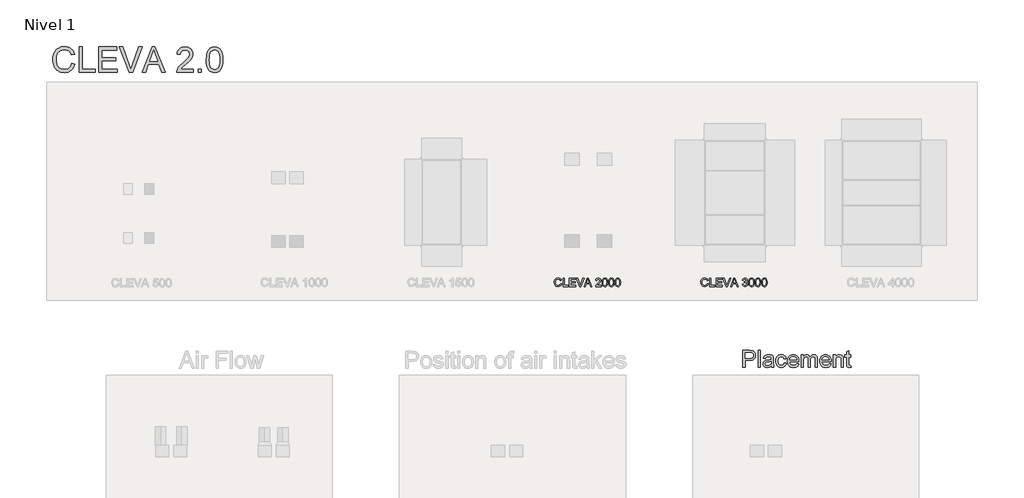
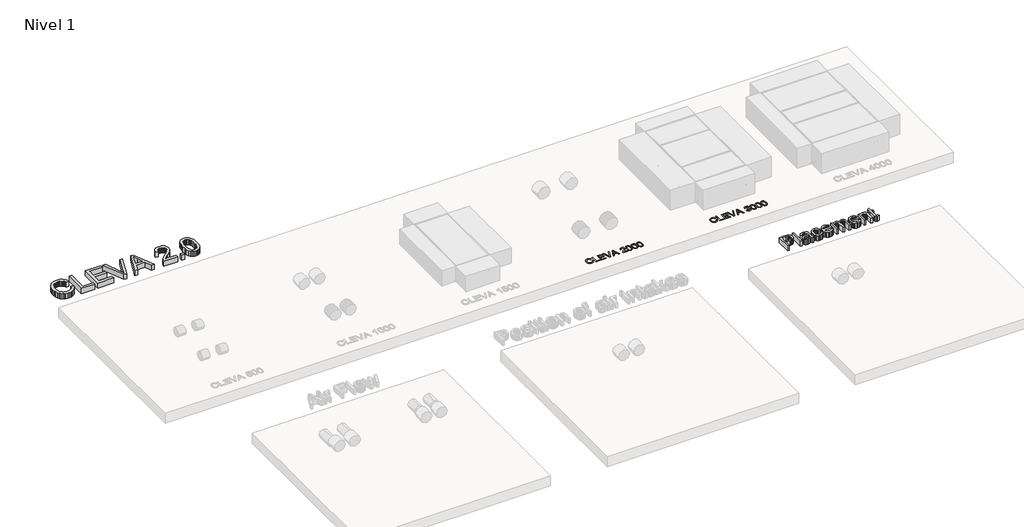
# One storey, part 3 of 4: 4 proxies.
"""IFC4 building model written with IfcOpenShell, lengths in millimetres."""

import ifcopenshell
import ifcopenshell.guid

model = None  # the IFC model being written
_history = None  # IfcOwnerHistory: only IFC2X3 demands one
_inside = {}  # id of a spatial element -> (the spatial element, [elements in it])
_under = {}  # id of a project, library or spatial element -> (it, [spatial elements below it])
_declared = {}  # id of a project -> (the project, [libraries it declares])
_typed = {}  # id of a type object -> (the type object, [elements of that type])
_made_of = {}  # id of a material, layer set ... -> (it, [elements and type objects made of it])


def new_model(schema):
    """Start an empty IFC model of exactly this schema.

    Asked for "IFC4X3", IfcOpenShell would pick the latest addendum, in which some entities
    have other attributes; the version numbers below select the first issue.
    IFC2X3 requires an IfcOwnerHistory on every rooted entity: one is made here for all.
    """
    global model, _history
    if schema == "IFC4X3":
        model = ifcopenshell.file(schema_version=(4, 3, 0, 0))
    else:
        model = ifcopenshell.file(schema=schema)
    _inside.clear()
    _under.clear()
    _declared.clear()
    _typed.clear()
    _made_of.clear()
    _history = None
    if model.schema == "IFC2X3":
        org = make("IfcOrganization", Name="unknown")
        user = make(
            "IfcPersonAndOrganization",
            ThePerson=make("IfcPerson", FamilyName="unknown"),
            TheOrganization=org,
        )
        app = make(
            "IfcApplication",
            ApplicationDeveloper=org,
            Version="unknown",
            ApplicationFullName="unknown",
            ApplicationIdentifier="unknown",
        )
        _history = make(
            "IfcOwnerHistory",
            OwningUser=user,
            OwningApplication=app,
            ChangeAction="ADDED",
            CreationDate=0,
        )
    return model


def make(cls, **values):
    """One entity of the class cls with the attributes given. An attribute that is None is left unset."""
    return model.create_entity(
        cls, **{name: value for name, value in values.items() if value is not None}
    )


def rooted(cls, **values):
    """An entity with a GlobalId (a new one), such as an element, a storey or a relation."""
    return make(cls, GlobalId=ifcopenshell.guid.new(), OwnerHistory=_history, **values)


def si_unit(unit_type, name, prefix=None):
    """IfcSIUnit, for example si_unit("LENGTHUNIT", "METRE", prefix="MILLI")."""
    return make("IfcSIUnit", UnitType=unit_type, Prefix=prefix, Name=name)


def assignment(units):
    """IfcUnitAssignment: the units of a project."""
    return None if units is None else make("IfcUnitAssignment", Units=units)


def point(xyz):
    """IfcCartesianPoint."""
    return None if xyz is None else make("IfcCartesianPoint", Coordinates=xyz)


def direction(xyz):
    """IfcDirection."""
    return None if xyz is None else make("IfcDirection", DirectionRatios=xyz)


def frame(location, z_axis=None, x_axis=None):
    """IfcAxis2Placement3D, a coordinate frame: its origin and axes. An axis left out is left unset."""
    return make(
        "IfcAxis2Placement3D",
        Location=point(location),
        Axis=direction(z_axis),
        RefDirection=direction(x_axis),
    )


def origin():
    """The frame at (0, 0, 0) with its axes left unset."""
    return frame((0.0, 0.0, 0.0))


def origin_with_axes():
    """The frame at (0, 0, 0) with the z axis (0, 0, 1) and the x axis (1, 0, 0) written out."""
    return frame((0.0, 0.0, 0.0), z_axis=(0.0, 0.0, 1.0), x_axis=(1.0, 0.0, 0.0))


def place(relative_to, where):
    """IfcLocalPlacement: puts the frame where relative to a parent placement (None: the world)."""
    return make(
        "IfcLocalPlacement", PlacementRelTo=relative_to, RelativePlacement=where
    )


def context(
    kind, dimensions, precision=None, world=None, true_north=None, identifier=None
):
    """IfcGeometricRepresentationContext, for example the 3D "Model" context."""
    return make(
        "IfcGeometricRepresentationContext",
        ContextIdentifier=identifier,
        ContextType=kind,
        CoordinateSpaceDimension=dimensions,
        Precision=precision,
        WorldCoordinateSystem=world,
        TrueNorth=true_north,
    )


def project(units=None, contexts=None):
    """IfcProject with its units and contexts."""
    return rooted(
        "IfcProject",
        Name="project",
        RepresentationContexts=contexts,
        UnitsInContext=assignment(units),
    )


def spatial(cls, under=None, at=None, **own):
    """A site, building, storey or space (cls), placed at a placement, below another one or the project."""
    s = rooted(cls, ObjectPlacement=at, **own)
    if under is not None:
        _under.setdefault(under.id(), (under, []))[1].append(s)
    return s


def polyline(points):
    """IfcPolyline through the points."""
    return make("IfcPolyline", Points=[point(p) for p in points])


def outline(outer, holes=None, kind="AREA"):
    """IfcArbitraryClosedProfileDef: a profile drawn as a closed curve; with holes, ...WithVoids."""
    if holes is None:
        return make("IfcArbitraryClosedProfileDef", ProfileType=kind, OuterCurve=outer)
    return make(
        "IfcArbitraryProfileDefWithVoids",
        ProfileType=kind,
        OuterCurve=outer,
        InnerCurves=holes,
    )


def extrude(swept, where, along, depth):
    """IfcExtrudedAreaSolid: the profile swept, set in the frame where, extruded along a direction by depth."""
    return make(
        "IfcExtrudedAreaSolid",
        SweptArea=swept,
        Position=where,
        ExtrudedDirection=direction(along),
        Depth=depth,
    )


def shape(context_of_items, identifier, shape_type, items):
    """IfcShapeRepresentation: the items that make up one representation, for example the "Body"."""
    return make(
        "IfcShapeRepresentation",
        ContextOfItems=context_of_items,
        RepresentationIdentifier=identifier,
        RepresentationType=shape_type,
        Items=items,
    )


def made_of(thing, what):
    """Note that an element or type object is made of a material, layer set ...; save() writes the relation."""
    if what is not None:
        _made_of.setdefault(what.id(), (what, []))[1].append(thing)
    return thing


def element(
    cls,
    number,
    at=None,
    inside=None,
    cuts=None,
    type_object=None,
    material=None,
    context=None,
    identifier="Body",
    shape_type=None,
    held_by="IfcProductDefinitionShape",
    body=None,
    shapes=None,
    **own,
):
    """One element of the class cls, such as IfcWall. Its Tag is "e" and its number.

    at: its placement. inside: the storey or other place that contains it. cuts: it is an
    opening in that element (IfcRelVoidsElement). A single representation is given by context,
    identifier, shape_type and body (its items); several are given by shapes. held_by: the class
    of the entity that holds the representations. save() writes the other relations.
    """
    e = rooted(cls, Tag="e%d" % number, ObjectPlacement=at, **own)
    if body is not None:
        shapes = [shape(context, identifier, shape_type, body)]
    if shapes is not None:
        e.Representation = make(held_by, Representations=shapes)
    if inside is not None:
        _inside.setdefault(inside.id(), (inside, []))[1].append(e)
    if cuts is not None:
        rooted(
            "IfcRelVoidsElement", RelatingBuildingElement=cuts, RelatedOpeningElement=e
        )
    if type_object is not None:
        _typed.setdefault(type_object.id(), (type_object, []))[1].append(e)
    return made_of(e, material)


def aggregate(whole, parts):
    """IfcRelAggregates: a whole, such as a stair, and the parts it consists of."""
    return rooted("IfcRelAggregates", RelatingObject=whole, RelatedObjects=parts)


def save(model, path):
    """Write the relations noted so far, then the file.

    IfcRelAggregates (storeys below a building ...), IfcRelContainedInSpatialStructure (elements
    in a storey), IfcRelDefinesByType, IfcRelAssociatesMaterial and IfcRelDeclares: one each for
    every whole, place, type object, material and project.
    """
    for whole, parts in _under.values():
        aggregate(whole, parts)
    for where, things in _inside.values():
        rooted(
            "IfcRelContainedInSpatialStructure",
            RelatedElements=things,
            RelatingStructure=where,
        )
    for kind, things in _typed.values():
        rooted("IfcRelDefinesByType", RelatedObjects=things, RelatingType=kind)
    for what, things in _made_of.values():
        rooted("IfcRelAssociatesMaterial", RelatedObjects=things, RelatingMaterial=what)
    for by, libraries in _declared.values():
        rooted("IfcRelDeclares", RelatingContext=by, RelatedDefinitions=libraries)
    model.write(path)


model = new_model("IFC4")

# Units and contexts
model_context = context("Model", 3, world=origin())
ifc_project = project(units=[si_unit("LENGTHUNIT", "METRE", prefix="MILLI")], contexts=[model_context])

# Site, building, storey
site = spatial("IfcSite", under=ifc_project)
building = spatial("IfcBuilding", under=site)
storey = spatial("IfcBuildingStorey", under=building, Name="Nivel 1", Elevation=0.0)

# Proxies
placement = place(None, origin())
element("IfcBuildingElementProxy", 1, Name="200mm Arial", ObjectType="200mm Arial", at=placement, inside=storey, context=model_context, shape_type="SweptSolid", body=[
    extrude(outline(polyline([(853.8312052, 6690.6454799), (878.9452827, 6684.1707568), (867.3569999, 6654.9057441), (849.1713666, 6633.5256688), (825.2835624, 6620.4474638), (796.5887667, 6616.0880622), (767.4586441, 6619.3867374), (744.3249979, 6629.2827631), (726.5930858, 6645.4327827), (713.668165, 6667.4934397), (705.7770962, 6693.4291203), (703.14674, 6721.204211), (706.1204528, 6750.4998805), (715.0415911, 6775.797899), (729.4441712, 6796.2950575), (748.8622092, 6811.188147), (771.8916221, 6820.2564382), (797.128327, 6823.2792019), (824.6642943, 6819.36739), (847.4300585, 6807.6319544), (864.7143809, 6788.7963962), (875.806023, 6763.5842168), (850.6919455, 6757.600003), (841.9854049, 6775.914395), (830.0905538, 6788.4775651), (814.8602392, 6795.7432345), (796.1473083, 6798.1651244), (774.5771607, 6795.4795858), (756.8575113, 6787.4229701), (743.4114243, 6774.8414059), (734.6619642, 6758.5810217), (729.8611042, 6740.1991846), (728.2608175, 6721.2532619), (730.1554098, 6698.0521707), (735.8391866, 6677.9903393), (745.5267458, 6661.8341883), (759.4326852, 6650.3501387), (776.103871, 6643.4891395), (794.0871692, 6641.2021397), (815.0503115, 6644.316874), (832.5185749, 6653.6610766), (845.7071445, 6669.1366459), (853.8312052, 6690.6454799)])), origin_with_axes(), (0.0, 0.0, 1.0), 10.0),
    extrude(outline(polyline([(913.4771393, 6619.2273219), (913.4771393, 6820.1399422), (938.5912169, 6820.1399422), (938.5912169, 6644.3413994), (1039.047527, 6644.3413994), (1039.047527, 6619.2273219), (913.4771393, 6619.2273219)])), origin_with_axes(), (0.0, 0.0, 1.0), 10.0),
    extrude(outline(polyline([(1067.3008642, 6619.2273219), (1067.3008642, 6820.1399422), (1211.7068101, 6820.1399422), (1211.7068101, 6795.0258647), (1092.4149418, 6795.0258647), (1092.4149418, 6735.3799305), (1205.4282907, 6735.3799305), (1205.4282907, 6710.265853), (1092.4149418, 6710.265853), (1092.4149418, 6644.3413994), (1214.8460698, 6644.3413994), (1214.8460698, 6619.2273219), (1067.3008642, 6619.2273219)])), origin_with_axes(), (0.0, 0.0, 1.0), 10.0),
    extrude(outline(polyline([(1414.336213, 6619.2273219), (1494.534488, 6820.1399422), (1515.9206946, 6820.1399422), (1596.1189696, 6619.2273219), (1569.582415, 6619.2273219), (1546.5775276, 6682.0125157), (1463.8286041, 6682.0125157), (1440.8727676, 6619.2273219), (1414.336213, 6619.2273219)]), holes=[polyline([(1473.0501795, 6707.1265933), (1537.4050032, 6707.1265933), (1519.305209, 6756.5208825), (1505.2275913, 6795.0258647), (1492.7196035, 6760.8373646), (1473.0501795, 6707.1265933)])]), origin_with_axes(), (0.0, 0.0, 1.0), 10.0),
    extrude(outline(polyline([(1311.8688146, 6619.2273219), (1231.9157944, 6820.1399422), (1258.7957055, 6820.1399422), (1312.310273, 6675.3906398), (1323.1505292, 6642.7717696), (1333.8436325, 6675.3906398), (1387.5053529, 6820.1399422), (1414.385264, 6820.1399422), (1337.816758, 6619.2273219), (1311.8688146, 6619.2273219)])), origin_with_axes(), (0.0, 0.0, 1.0), 10.0),
    extrude(outline(polyline([(1820.7231904, 6644.3413994), (1820.7231904, 6619.2273219), (1688.8742833, 6619.2273219), (1691.5720846, 6636.5423011), (1706.8269247, 6663.2014831), (1738.2685725, 6692.3132116), (1781.629597, 6734.1536572), (1789.7597891, 6748.5746314), (1792.4698531, 6762.6031982), (1789.9130733, 6775.178631), (1782.2427337, 6785.632611), (1770.4521157, 6792.6775513), (1755.5345008, 6795.0258647), (1739.8688592, 6792.7327336), (1727.6980965, 6785.8533402), (1719.8438159, 6774.927245), (1717.1276205, 6760.494008), (1692.013543, 6763.6332677), (1698.10199, 6787.9257422), (1711.2660341, 6805.6699171), (1730.8189621, 6816.5224359), (1756.0740611, 6820.1399422), (1781.5131011, 6816.1177657), (1801.0292409, 6804.0512363), (1813.4452582, 6786.0250185), (1817.5839307, 6764.1237771), (1813.1202958, 6740.3095492), (1798.2823887, 6715.685981), (1762.3035295, 6681.2767518), (1733.4125302, 6657.1191674), (1722.0817647, 6644.3413994), (1820.7231904, 6644.3413994)])), origin_with_axes(), (0.0, 0.0, 1.0), 10.0),
    extrude(outline(polyline([(1845.8372679, 6718.0649513), (1847.6828093, 6750.223969), (1853.2194333, 6775.8714754), (1862.3919577, 6795.399878), (1875.1452002, 6809.2015842), (1891.5711313, 6817.4053527), (1911.7617214, 6820.1399422), (1927.2372907, 6818.5212614), (1941.0941792, 6813.6652191), (1952.682462, 6805.7618876), (1961.3522144, 6795.0013392), (1973.1244382, 6765.276474), (1977.686175, 6718.0649513), (1975.8590277, 6686.0898745), (1970.377586, 6660.5036818), (1961.2602439, 6640.9568851), (1948.5253955, 6627.0999966), (1932.0626762, 6618.8410458), (1911.7617214, 6616.0880622), (1885.6666253, 6620.8705281), (1865.8500484, 6635.217926), (1857.094457, 6650.347073), (1850.840463, 6669.1979596), (1845.8372679, 6718.0649513)]), holes=[polyline([(1870.9513454, 6718.1140022), (1873.8944014, 6678.6096073), (1882.7235693, 6655.7457413), (1895.8692193, 6644.8380401), (1911.7617214, 6641.2021397), (1927.6542236, 6644.8503029), (1940.7998736, 6655.7947922), (1949.6290415, 6678.670921), (1952.5720974, 6718.1140022), (1949.7271433, 6756.729349), (1941.1922811, 6779.7710246), (1928.0711566, 6791.2121546), (1911.4674158, 6795.0258647), (1895.7465919, 6791.6658758), (1883.1159768, 6781.5859091), (1873.9925033, 6757.1094937), (1870.9513454, 6718.1140022)])]), origin_with_axes(), (0.0, 0.0, 1.0), 10.0),
    extrude(outline(polyline([(1999.6609928, 6718.0649513), (2001.5065342, 6750.223969), (2007.0431582, 6775.8714754), (2016.2156826, 6795.399878), (2028.9689251, 6809.2015842), (2045.3948562, 6817.4053527), (2065.5854464, 6820.1399422), (2081.0610156, 6818.5212614), (2094.9179041, 6813.6652191), (2106.506187, 6805.7618876), (2115.1759393, 6795.0013392), (2126.9481632, 6765.276474), (2131.5098999, 6718.0649513), (2129.6827527, 6686.0898745), (2124.2013109, 6660.5036818), (2115.0839688, 6640.9568851), (2102.3491204, 6627.0999966), (2085.8864011, 6618.8410458), (2065.5854464, 6616.0880622), (2039.4903502, 6620.8705281), (2019.6737734, 6635.217926), (2010.9181819, 6650.347073), (2004.664188, 6669.1979596), (1999.6609928, 6718.0649513)]), holes=[polyline([(2024.7750704, 6718.1140022), (2027.7181263, 6678.6096073), (2036.5472942, 6655.7457413), (2049.6929442, 6644.8380401), (2065.5854464, 6641.2021397), (2081.4779486, 6644.8503029), (2094.6235985, 6655.7947922), (2103.4527664, 6678.670921), (2106.3958224, 6718.1140022), (2103.5508683, 6756.729349), (2095.016006, 6779.7710246), (2081.8948815, 6791.2121546), (2065.2911408, 6795.0258647), (2049.5703168, 6791.6658758), (2036.9397017, 6781.5859091), (2027.8162282, 6757.1094937), (2024.7750704, 6718.1140022)])]), origin_with_axes(), (0.0, 0.0, 1.0), 10.0),
    extrude(outline(polyline([(2153.4847177, 6718.0649513), (2155.3302591, 6750.223969), (2160.8668831, 6775.8714754), (2170.0394075, 6795.399878), (2182.79265, 6809.2015842), (2199.2185811, 6817.4053527), (2219.4091713, 6820.1399422), (2234.8847405, 6818.5212614), (2248.741629, 6813.6652191), (2260.3299119, 6805.7618876), (2268.9996642, 6795.0013392), (2280.7718881, 6765.276474), (2285.3336248, 6718.0649513), (2283.5064776, 6686.0898745), (2278.0250358, 6660.5036818), (2268.9076937, 6640.9568851), (2256.1728453, 6627.0999966), (2239.710126, 6618.8410458), (2219.4091713, 6616.0880622), (2193.3140751, 6620.8705281), (2173.4974983, 6635.217926), (2164.7419068, 6650.347073), (2158.4879129, 6669.1979596), (2153.4847177, 6718.0649513)]), holes=[polyline([(2178.5987953, 6718.1140022), (2181.5418512, 6678.6096073), (2190.3710191, 6655.7457413), (2203.5166691, 6644.8380401), (2219.4091713, 6641.2021397), (2235.3016735, 6644.8503029), (2248.4473234, 6655.7947922), (2257.2764913, 6678.670921), (2260.2195473, 6718.1140022), (2257.3745932, 6756.729349), (2248.8397309, 6779.7710246), (2235.7186064, 6791.2121546), (2219.1148657, 6795.0258647), (2203.3940418, 6791.6658758), (2190.7634266, 6781.5859091), (2181.6399531, 6757.1094937), (2178.5987953, 6718.1140022)])]), origin_with_axes(), (0.0, 0.0, 1.0), 10.0),
])
element("IfcBuildingElementProxy", 2, Name="200mm Arial", ObjectType="200mm Arial", at=placement, inside=storey, context=model_context, shape_type="SweptSolid", body=[
    extrude(outline(polyline([(4353.8312052, 6690.6454799), (4378.9452827, 6684.1707568), (4367.3569999, 6654.9057441), (4349.1713666, 6633.5256688), (4325.2835624, 6620.4474638), (4296.5887667, 6616.0880622), (4267.4586441, 6619.3867374), (4244.3249979, 6629.2827631), (4226.5930858, 6645.4327827), (4213.668165, 6667.4934397), (4205.7770962, 6693.4291203), (4203.14674, 6721.204211), (4206.1204528, 6750.4998805), (4215.0415911, 6775.797899), (4229.4441712, 6796.2950575), (4248.8622092, 6811.188147), (4271.8916221, 6820.2564382), (4297.128327, 6823.2792019), (4324.6642943, 6819.36739), (4347.4300585, 6807.6319544), (4364.7143809, 6788.7963962), (4375.806023, 6763.5842168), (4350.6919455, 6757.600003), (4341.9854049, 6775.914395), (4330.0905538, 6788.4775651), (4314.8602392, 6795.7432345), (4296.1473083, 6798.1651244), (4274.5771607, 6795.4795858), (4256.8575113, 6787.4229701), (4243.4114243, 6774.8414059), (4234.6619642, 6758.5810217), (4229.8611042, 6740.1991846), (4228.2608175, 6721.2532619), (4230.1554098, 6698.0521707), (4235.8391866, 6677.9903393), (4245.5267458, 6661.8341883), (4259.4326852, 6650.3501387), (4276.103871, 6643.4891395), (4294.0871692, 6641.2021397), (4315.0503115, 6644.316874), (4332.5185749, 6653.6610766), (4345.7071445, 6669.1366459), (4353.8312052, 6690.6454799)])), origin_with_axes(), (0.0, 0.0, 1.0), 10.0),
    extrude(outline(polyline([(4413.4771393, 6619.2273219), (4413.4771393, 6820.1399422), (4438.5912169, 6820.1399422), (4438.5912169, 6644.3413994), (4539.047527, 6644.3413994), (4539.047527, 6619.2273219), (4413.4771393, 6619.2273219)])), origin_with_axes(), (0.0, 0.0, 1.0), 10.0),
    extrude(outline(polyline([(4567.3008642, 6619.2273219), (4567.3008642, 6820.1399422), (4711.7068101, 6820.1399422), (4711.7068101, 6795.0258647), (4592.4149418, 6795.0258647), (4592.4149418, 6735.3799305), (4705.4282907, 6735.3799305), (4705.4282907, 6710.265853), (4592.4149418, 6710.265853), (4592.4149418, 6644.3413994), (4714.8460698, 6644.3413994), (4714.8460698, 6619.2273219), (4567.3008642, 6619.2273219)])), origin_with_axes(), (0.0, 0.0, 1.0), 10.0),
    extrude(outline(polyline([(4914.336213, 6619.2273219), (4994.534488, 6820.1399422), (5015.9206946, 6820.1399422), (5096.1189696, 6619.2273219), (5069.582415, 6619.2273219), (5046.5775276, 6682.0125157), (4963.8286041, 6682.0125157), (4940.8727676, 6619.2273219), (4914.336213, 6619.2273219)]), holes=[polyline([(4973.0501795, 6707.1265933), (5037.4050032, 6707.1265933), (5019.305209, 6756.5208825), (5005.2275913, 6795.0258647), (4992.7196035, 6760.8373646), (4973.0501795, 6707.1265933)])]), origin_with_axes(), (0.0, 0.0, 1.0), 10.0),
    extrude(outline(polyline([(4811.8688146, 6619.2273219), (4731.9157944, 6820.1399422), (4758.7957055, 6820.1399422), (4812.310273, 6675.3906398), (4823.1505292, 6642.7717696), (4833.8436325, 6675.3906398), (4887.5053529, 6820.1399422), (4914.385264, 6820.1399422), (4837.816758, 6619.2273219), (4811.8688146, 6619.2273219)])), origin_with_axes(), (0.0, 0.0, 1.0), 10.0),
    extrude(outline(polyline([(5192.013543, 6672.5947367), (5217.1276205, 6675.7339964), (5222.7500837, 6659.9518588), (5230.984509, 6649.2955436), (5242.2355667, 6643.2254907), (5256.9079269, 6641.2021397), (5274.1248043, 6643.9857802), (5287.4176071, 6652.3367015), (5295.9156812, 6664.7956384), (5298.7483725, 6679.9033256), (5295.9402066, 6694.2445921), (5287.5157089, 6705.8757945), (5274.7624664, 6713.5829223), (5258.9680661, 6716.1519649), (5241.3587813, 6713.4051127), (5244.1546844, 6738.5191902), (5248.1768609, 6738.2248846), (5263.2232345, 6740.0275064), (5276.6754528, 6745.4353717), (5286.1668083, 6754.5833707), (5289.3305934, 6767.6063933), (5287.0374623, 6778.4527808), (5280.158069, 6787.2512918), (5269.6611694, 6793.0822215), (5256.5155195, 6795.0258647), (5243.3453441, 6793.0638274), (5232.5786643, 6787.1777154), (5224.7182524, 6777.3675289), (5220.2668802, 6763.6332677), (5195.1528027, 6766.7725274), (5202.5472308, 6789.3236937), (5215.7051435, 6806.1604264), (5233.7068358, 6816.6450632), (5255.6326027, 6820.1399422), (5271.4208717, 6818.4170282), (5285.9215536, 6813.2482862), (5298.1474986, 6805.0935686), (5307.1115565, 6794.412728), (5312.6113924, 6782.1070753), (5314.444671, 6769.0779213), (5312.7033629, 6756.9378154), (5307.4794385, 6745.925881), (5298.8464744, 6736.5448902), (5286.8780468, 6729.2976149), (5302.5988707, 6722.9455191), (5314.2484673, 6712.1297884), (5321.4589544, 6697.4390341), (5323.8624501, 6679.4618672), (5319.0554587, 6654.9854518), (5304.6344844, 6634.5312129), (5282.8681331, 6620.6988499), (5256.0250102, 6616.0880622), (5231.7447985, 6620.0243996), (5211.9772726, 6631.8334116), (5198.2307487, 6649.8964176), (5192.013543, 6672.5947367)])), origin_with_axes(), (0.0, 0.0, 1.0), 10.0),
    extrude(outline(polyline([(5345.8372679, 6718.0649513), (5347.6828093, 6750.223969), (5353.2194333, 6775.8714754), (5362.3919577, 6795.399878), (5375.1452002, 6809.2015842), (5391.5711313, 6817.4053527), (5411.7617214, 6820.1399422), (5427.2372907, 6818.5212614), (5441.0941792, 6813.6652191), (5452.682462, 6805.7618876), (5461.3522144, 6795.0013392), (5473.1244382, 6765.276474), (5477.686175, 6718.0649513), (5475.8590277, 6686.0898745), (5470.377586, 6660.5036818), (5461.2602439, 6640.9568851), (5448.5253955, 6627.0999966), (5432.0626762, 6618.8410458), (5411.7617214, 6616.0880622), (5385.6666253, 6620.8705281), (5365.8500484, 6635.217926), (5357.094457, 6650.347073), (5350.840463, 6669.1979596), (5345.8372679, 6718.0649513)]), holes=[polyline([(5370.9513454, 6718.1140022), (5373.8944014, 6678.6096073), (5382.7235693, 6655.7457413), (5395.8692193, 6644.8380401), (5411.7617214, 6641.2021397), (5427.6542236, 6644.8503029), (5440.7998736, 6655.7947922), (5449.6290415, 6678.670921), (5452.5720974, 6718.1140022), (5449.7271433, 6756.729349), (5441.1922811, 6779.7710246), (5428.0711566, 6791.2121546), (5411.4674158, 6795.0258647), (5395.7465919, 6791.6658758), (5383.1159768, 6781.5859091), (5373.9925033, 6757.1094937), (5370.9513454, 6718.1140022)])]), origin_with_axes(), (0.0, 0.0, 1.0), 10.0),
    extrude(outline(polyline([(5499.6609928, 6718.0649513), (5501.5065342, 6750.223969), (5507.0431582, 6775.8714754), (5516.2156826, 6795.399878), (5528.9689251, 6809.2015842), (5545.3948562, 6817.4053527), (5565.5854464, 6820.1399422), (5581.0610156, 6818.5212614), (5594.9179041, 6813.6652191), (5606.506187, 6805.7618876), (5615.1759393, 6795.0013392), (5626.9481632, 6765.276474), (5631.5098999, 6718.0649513), (5629.6827527, 6686.0898745), (5624.2013109, 6660.5036818), (5615.0839688, 6640.9568851), (5602.3491204, 6627.0999966), (5585.8864011, 6618.8410458), (5565.5854464, 6616.0880622), (5539.4903502, 6620.8705281), (5519.6737734, 6635.217926), (5510.9181819, 6650.347073), (5504.664188, 6669.1979596), (5499.6609928, 6718.0649513)]), holes=[polyline([(5524.7750704, 6718.1140022), (5527.7181263, 6678.6096073), (5536.5472942, 6655.7457413), (5549.6929442, 6644.8380401), (5565.5854464, 6641.2021397), (5581.4779486, 6644.8503029), (5594.6235985, 6655.7947922), (5603.4527664, 6678.670921), (5606.3958224, 6718.1140022), (5603.5508683, 6756.729349), (5595.016006, 6779.7710246), (5581.8948815, 6791.2121546), (5565.2911408, 6795.0258647), (5549.5703168, 6791.6658758), (5536.9397017, 6781.5859091), (5527.8162282, 6757.1094937), (5524.7750704, 6718.1140022)])]), origin_with_axes(), (0.0, 0.0, 1.0), 10.0),
    extrude(outline(polyline([(5653.4847177, 6718.0649513), (5655.3302591, 6750.223969), (5660.8668831, 6775.8714754), (5670.0394075, 6795.399878), (5682.79265, 6809.2015842), (5699.2185811, 6817.4053527), (5719.4091713, 6820.1399422), (5734.8847405, 6818.5212614), (5748.741629, 6813.6652191), (5760.3299119, 6805.7618876), (5768.9996642, 6795.0013392), (5780.7718881, 6765.276474), (5785.3336248, 6718.0649513), (5783.5064776, 6686.0898745), (5778.0250358, 6660.5036818), (5768.9076937, 6640.9568851), (5756.1728453, 6627.0999966), (5739.710126, 6618.8410458), (5719.4091713, 6616.0880622), (5693.3140751, 6620.8705281), (5673.4974983, 6635.217926), (5664.7419068, 6650.347073), (5658.4879129, 6669.1979596), (5653.4847177, 6718.0649513)]), holes=[polyline([(5678.5987953, 6718.1140022), (5681.5418512, 6678.6096073), (5690.3710191, 6655.7457413), (5703.5166691, 6644.8380401), (5719.4091713, 6641.2021397), (5735.3016735, 6644.8503029), (5748.4473234, 6655.7947922), (5757.2764913, 6678.670921), (5760.2195473, 6718.1140022), (5757.3745932, 6756.729349), (5748.8397309, 6779.7710246), (5735.7186064, 6791.2121546), (5719.1148657, 6795.0258647), (5703.3940418, 6791.6658758), (5690.7634266, 6781.5859091), (5681.6399531, 6757.1094937), (5678.5987953, 6718.1140022)])]), origin_with_axes(), (0.0, 0.0, 1.0), 10.0),
])
element("IfcBuildingElementProxy", 3, Name="400mm Arial", ObjectType="400mm Arial", at=placement, inside=storey, context=model_context, shape_type="SweptSolid", body=[
    extrude(outline(polyline([(5208.7895796, 4690.2598658), (5208.7895796, 5092.0851064), (5357.7082112, 5092.0851064), (5417.7465529, 5088.2591337), (5444.5160994, 5081.1099602), (5466.5522309, 5069.4726264), (5484.2964058, 5052.8198348), (5498.1900825, 5030.6242878), (5507.1664032, 5004.4433524), (5510.15851, 4975.8343959), (5508.1382248, 4951.1679082), (5502.0773689, 4928.4757204), (5491.9759424, 4907.7578327), (5477.8339454, 4889.0142451), (5458.4189731, 4873.4773622), (5432.4986209, 4862.3795886), (5400.0728887, 4855.7209245), (5361.1417765, 4853.5013698), (5259.0177347, 4853.5013698), (5259.0177347, 4690.2598658), (5208.7895796, 4690.2598658)]), holes=[polyline([(5259.0177347, 4903.7295249), (5364.0848325, 4903.7295249), (5408.6230794, 4908.3403126), (5425.2268201, 4914.1037972), (5438.053639, 4922.1726756), (5447.6247022, 4932.33235), (5454.461176, 4944.3682226), (5459.930355, 4974.0685624), (5456.7052561, 4996.6319914), (5447.0299597, 5015.6637533), (5432.1062134, 5029.9866256), (5413.1357652, 5038.4233861), (5362.9076101, 5041.8569513), (5259.0177347, 5041.8569513), (5259.0177347, 4903.7295249)])]), origin_with_axes(), (0.0, 0.0, 1.0), 150.0),
    extrude(outline(polyline([(5572.9437039, 4690.2598658), (5572.9437039, 5092.0851064), (5623.171859, 5092.0851064), (5623.171859, 4690.2598658), (5572.9437039, 4690.2598658)])), origin_with_axes(), (0.0, 0.0, 1.0), 150.0),
    extrude(outline(polyline([(5886.8696731, 4727.9309821), (5862.8715043, 4707.3541159), (5838.1620969, 4693.8896348), (5812.1773654, 4686.4584185), (5784.3532238, 4683.9813464), (5761.9890642, 4685.4712685), (5742.3778881, 4689.9410348), (5725.5196957, 4697.3906452), (5711.4144869, 4707.8200997), (5700.2768595, 4720.5672109), (5692.3214113, 4734.969791), (5687.5481424, 4751.0278401), (5685.9570528, 4768.7413581), (5688.3605485, 4789.5634791), (5695.5710356, 4808.4726136), (5706.6933346, 4824.6594214), (5720.832266, 4837.314562), (5737.4482694, 4846.8794939), (5756.0017847, 4853.7956754), (5799.4609111, 4861.349519), (5850.8172376, 4869.2957701), (5886.5753675, 4878.6154474), (5886.8696731, 4889.79906), (5883.4115824, 4912.2153362), (5873.0373101, 4926.8815651), (5849.8362189, 4937.7708722), (5817.5116543, 4941.4006412), (5787.5905853, 4938.9848828), (5766.694888, 4931.7376075), (5752.4455921, 4918.3344401), (5742.4637273, 4897.4510055), (5692.2355722, 4903.7295249), (5700.9543755, 4931.1980472), (5713.9651354, 4952.7804576), (5732.4818625, 4969.2860964), (5757.7185673, 4981.5243041), (5788.5838667, 4989.1026732), (5823.9863774, 4991.6287963), (5857.9418856, 4989.3969788), (5884.8585849, 4982.7015265), (5905.1534083, 4972.6338226), (5919.2432887, 4960.2852503), (5928.5874914, 4945.0181475), (5934.6452815, 4926.1948521), (5937.0978282, 4882.2452164), (5937.0978282, 4819.7543281), (5939.6484767, 4732.4927189), (5949.654867, 4690.2598658), (5899.4267119, 4690.2598658), (5891.3823589, 4707.7219979), (5886.8696731, 4727.9309821)]), holes=[polyline([(5886.8696731, 4828.3872923), (5853.1226314, 4820.0241083), (5805.8375323, 4812.9852994), (5762.6236606, 4804.8428446), (5751.3787343, 4799.2755637), (5743.0523385, 4791.5990928), (5737.9019905, 4782.4020429), (5736.1852079, 4772.2730253), (5739.9253415, 4757.3370163), (5751.1457424, 4745.0988086), (5769.6011558, 4736.9318283), (5795.0463271, 4734.2095015), (5822.0243401, 4737.2138711), (5845.8630934, 4746.22698), (5865.1891609, 4759.50752), (5878.6291164, 4775.3141831), (5884.5888047, 4791.5990928), (5886.5753675, 4814.1625218), (5886.8696731, 4828.3872923)])]), origin_with_axes(), (0.0, 0.0, 1.0), 150.0),
    extrude(outline(polyline([(6194.5171229, 4796.9946954), (6244.745278, 4790.716176), (6239.2822304, 4767.0153784), (6230.7412367, 4746.043039), (6219.1222971, 4727.7991577), (6204.4254113, 4712.2837346), (6187.2698476, 4699.9014398), (6168.274874, 4691.0569435), (6147.4404903, 4685.7502457), (6124.7666967, 4683.9813464), (6096.5961329, 4686.4492215), (6071.3379682, 4693.8528466), (6048.9922027, 4706.1922219), (6029.5588363, 4723.4673473), (6013.8288153, 4745.3532603), (6002.5930861, 4771.5249986), (5995.8516485, 4801.9825621), (5993.6045026, 4836.7259508), (5997.4427381, 4881.4236132), (6008.9574446, 4920.1615873), (6028.332563, 4951.4438197), (6055.7520344, 4973.7742568), (6088.5548456, 4987.1651614), (6124.0799836, 4991.6287963), (6146.3644355, 4990.0959546), (6166.5213031, 4985.4974297), (6184.5505866, 4977.8332214), (6200.4522858, 4967.1033299), (6213.9566207, 4953.5530098), (6224.7938111, 4937.4275156), (6232.9638571, 4918.7268476), (6238.4667586, 4897.4510055), (6188.2386036, 4891.1724861), (6179.1273928, 4913.0859903), (6164.9394105, 4928.7945515), (6146.4594716, 4938.2491188), (6124.4723911, 4941.4006412), (6107.4057322, 4939.8494054), (6092.0129364, 4935.1956982), (6078.2940036, 4927.4395195), (6066.248934, 4916.5808693), (6056.4418131, 4902.3683615), (6049.4367268, 4884.5506102), (6045.233675, 4863.1276154), (6043.8326577, 4838.0993769), (6049.3140994, 4791.0227443), (6056.1659016, 4773.0854314), (6065.7584246, 4758.8821207), (6077.564371, 4748.0878498), (6091.0564432, 4740.3776563), (6106.2346411, 4735.7515402), (6123.0989649, 4734.2095015), (6149.108222, 4738.0599997), (6170.433115, 4749.6114944), (6185.9454725, 4769.1582911), (6194.5171229, 4796.9946954)])), origin_with_axes(), (0.0, 0.0, 1.0), 150.0),
    extrude(outline(polyline([(6495.2974422, 4778.1591372), (6544.5445786, 4771.8806178), (6536.9938007, 4752.1560115), (6526.8004037, 4734.7735872), (6513.9643878, 4719.733345), (6498.4857528, 4707.0352848), (6480.5239144, 4696.9491868), (6460.2382881, 4689.744831), (6412.6956715, 4683.9813464), (6381.5299352, 4686.4676156), (6353.7609759, 4693.926423), (6329.3887937, 4706.3577688), (6308.4133886, 4723.7616528), (6291.5459992, 4745.6536972), (6279.4978638, 4771.549524), (6272.2689826, 4801.4491332), (6269.8593556, 4835.3525247), (6272.2935081, 4870.4055475), (6279.5959657, 4901.3015037), (6291.7667284, 4928.0403934), (6308.8057961, 4950.6222165), (6329.7260189, 4968.5625952), (6353.5402467, 4981.3771513), (6380.2484796, 4989.065885), (6409.8507175, 4991.6287963), (6438.4995278, 4989.0720164), (6464.4076173, 4981.4016768), (6487.574986, 4968.6177775), (6508.0016338, 4950.7203184), (6524.6758852, 4928.1875462), (6536.5860648, 4901.4977075), (6543.7321725, 4870.6508022), (6546.1142085, 4835.6468303), (6545.8199029, 4822.1087729), (6320.0875106, 4822.1087729), (6322.9968441, 4802.0653355), (6328.7817884, 4784.511233), (6337.4423438, 4769.4464653), (6348.97851, 4756.8710324), (6362.752625, 4746.9566126), (6378.1270267, 4739.8748842), (6413.6766902, 4734.2095015), (6440.4094485, 4736.8337264), (6462.9238266, 4744.7064011), (6481.2198245, 4758.3180349), (6495.2974422, 4778.1591372)]), holes=[polyline([(6320.0875106, 4872.336928), (6495.8860534, 4872.336928), (6489.0924992, 4898.8734826), (6475.775171, 4917.8561935), (6462.077698, 4928.1568894), (6446.4917642, 4935.5145293), (6429.0173694, 4939.9291132), (6409.6545137, 4941.4006412), (6375.7971074, 4936.7040144), (6347.8012876, 4922.614134), (6328.3403301, 4900.6515789), (6320.0875106, 4872.336928)])]), origin_with_axes(), (0.0, 0.0, 1.0), 150.0),
    extrude(outline(polyline([(6596.3423635, 4690.2598658), (6596.3423635, 4985.3502769), (6646.5705186, 4985.3502769), (6646.5705186, 4936.7898535), (6661.6782059, 4959.0957652), (6681.1023752, 4976.5701599), (6704.1808391, 4987.8641372), (6730.2514098, 4991.6287963), (6758.185916, 4987.7905608), (6780.5776667, 4976.2758543), (6797.3040348, 4957.8449664), (6808.2423928, 4933.2581864), (6826.5506534, 4958.7953282), (6847.434088, 4977.0361438), (6870.8926965, 4987.9806331), (6896.9264791, 4991.6287963), (6917.0342958, 4990.111283), (6934.6834345, 4985.5587433), (6949.8738952, 4977.9711772), (6962.6056779, 4967.3485846), (6972.6703162, 4953.5683382), (6979.8593435, 4936.5078107), (6984.1727599, 4916.167002), (6985.6105654, 4892.5459122), (6985.6105654, 4690.2598658), (6935.3824103, 4690.2598658), (6935.3824103, 4870.9635019), (6934.2174506, 4896.0162657), (6930.7225717, 4912.9020493), (6924.1742722, 4924.4658067), (6913.8490508, 4933.552492), (6900.5685108, 4939.4386039), (6885.1542552, 4941.4006412), (6857.9432503, 4936.3729206), (6835.759966, 4921.2897588), (6827.154593, 4909.71987), (6821.007898, 4895.1210862), (6816.090542, 4856.8368332), (6816.090542, 4690.2598658), (6765.8623869, 4690.2598658), (6765.8623869, 4876.5553082), (6762.9561192, 4904.9557982), (6754.2373159, 4925.2138334), (6738.8966367, 4937.3539392), (6716.1247412, 4941.4006412), (6696.7741482, 4938.7028399), (6678.9441342, 4930.609436), (6664.2288544, 4917.3166332), (6654.2224641, 4899.0206353), (6648.483505, 4873.6367777), (6646.5705186, 4839.0803956), (6646.5705186, 4690.2598658), (6596.3423635, 4690.2598658)])), origin_with_axes(), (0.0, 0.0, 1.0), 150.0),
    extrude(outline(polyline([(7267.5553265, 4778.1591372), (7316.8024629, 4771.8806178), (7309.2516849, 4752.1560115), (7299.058288, 4734.7735872), (7286.222272, 4719.733345), (7270.7436371, 4707.0352848), (7252.7817987, 4696.9491868), (7232.4961723, 4689.744831), (7184.9535558, 4683.9813464), (7153.7878195, 4686.4676156), (7126.0188602, 4693.926423), (7101.646678, 4706.3577688), (7080.6712729, 4723.7616528), (7063.8038834, 4745.6536972), (7051.7557481, 4771.549524), (7044.5268669, 4801.4491332), (7042.1172398, 4835.3525247), (7044.5513924, 4870.4055475), (7051.85385, 4901.3015037), (7064.0246126, 4928.0403934), (7081.0636804, 4950.6222165), (7101.9839032, 4968.5625952), (7125.798131, 4981.3771513), (7152.5063638, 4989.065885), (7182.1086017, 4991.6287963), (7210.7574121, 4989.0720164), (7236.6655016, 4981.4016768), (7259.8328703, 4968.6177775), (7280.259518, 4950.7203184), (7296.9337695, 4928.1875462), (7308.8439491, 4901.4977075), (7315.9900568, 4870.6508022), (7318.3720927, 4835.6468303), (7318.0777871, 4822.1087729), (7092.3453949, 4822.1087729), (7095.2547283, 4802.0653355), (7101.0396727, 4784.511233), (7109.700228, 4769.4464653), (7121.2363943, 4756.8710324), (7135.0105093, 4746.9566126), (7150.384911, 4739.8748842), (7185.9345745, 4734.2095015), (7212.6673328, 4736.8337264), (7235.1817109, 4744.7064011), (7253.4777088, 4758.3180349), (7267.5553265, 4778.1591372)]), holes=[polyline([(7092.3453949, 4872.336928), (7268.1439377, 4872.336928), (7261.3503835, 4898.8734826), (7248.0330553, 4917.8561935), (7234.3355823, 4928.1568894), (7218.7496484, 4935.5145293), (7201.2752537, 4939.9291132), (7181.912398, 4941.4006412), (7148.0549917, 4936.7040144), (7120.0591719, 4922.614134), (7100.5982143, 4900.6515789), (7092.3453949, 4872.336928)])]), origin_with_axes(), (0.0, 0.0, 1.0), 150.0),
    extrude(outline(polyline([(7368.6002478, 4690.2598658), (7368.6002478, 4985.3502769), (7418.8284029, 4985.3502769), (7418.8284029, 4944.1474934), (7436.2782722, 4964.9205634), (7457.2352832, 4979.7584706), (7481.6994359, 4988.6612148), (7509.6707302, 4991.6287963), (7534.4291885, 4989.2375633), (7557.1029821, 4982.0638644), (7576.0121167, 4971.0028791), (7589.4765977, 4956.9497869), (7598.6123339, 4939.9413759), (7604.5352341, 4920.0144345), (7607.1839844, 4871.4540112), (7607.1839844, 4690.2598658), (7556.9558293, 4690.2598658), (7556.9558293, 4864.6849825), (7555.5088268, 4890.6574513), (7551.1678193, 4909.1251275), (7543.1602545, 4922.3566166), (7530.7135804, 4932.6205242), (7514.7597645, 4939.205612), (7496.2307747, 4941.4006412), (7466.8124778, 4936.4710225), (7441.7351885, 4921.6821663), (7431.7134698, 4909.6095054), (7424.5550993, 4893.109998), (7420.260077, 4872.1836438), (7418.8284029, 4846.830443), (7418.8284029, 4690.2598658), (7368.6002478, 4690.2598658)])), origin_with_axes(), (0.0, 0.0, 1.0), 150.0),
    extrude(outline(polyline([(7782.9825272, 4732.1493623), (7789.2610466, 4688.7883378), (7751.6880321, 4683.9813464), (7727.5794987, 4686.0660111), (7709.6023319, 4692.320005), (7696.8981403, 4701.9585133), (7688.6085327, 4714.196721), (7684.0467959, 4735.2150456), (7682.526217, 4771.1939048), (7682.526217, 4935.1221218), (7644.8551007, 4935.1221218), (7644.8551007, 4985.3502769), (7682.526217, 4985.3502769), (7682.526217, 5057.0627405), (7732.7543721, 5086.591402), (7732.7543721, 4985.3502769), (7782.9825272, 4985.3502769), (7782.9825272, 4935.1221218), (7732.7543721, 4935.1221218), (7732.7543721, 4772.6654327), (7735.4031225, 4746.7665403), (7743.9870357, 4737.5940159), (7761.1058112, 4734.2095015), (7782.9825272, 4732.1493623)])), origin_with_axes(), (0.0, 0.0, 1.0), 150.0),
])
element("IfcBuildingElementProxy", 4, Name="600mm Arial", ObjectType="600mm Arial", at=placement, inside=storey, context=model_context, shape_type="SweptSolid", body=[
    extrude(outline(polyline([(-10815.2581026, 11950.1330083), (-10739.91587, 11930.7088389), (-10754.8242878, 11883.8544683), (-10774.6807185, 11842.9138008), (-10799.485162, 11807.8868363), (-10829.2376184, 11778.7735749), (-10863.2667029, 11755.8867163), (-10900.9010311, 11739.5389601), (-10942.1406027, 11729.7303064), (-10986.9854179, 11726.4607552), (-11032.9292806, 11728.9347616), (-11074.3757859, 11736.3567809), (-11111.3249338, 11748.726813), (-11143.7767243, 11766.0448579), (-11172.1772143, 11788.0533982), (-11196.9724608, 11814.4949166), (-11218.1624637, 11845.3694131), (-11235.7472231, 11880.6768876), (-11249.5565935, 11918.8906298), (-11259.4204295, 11958.4839296), (-11265.3387311, 11999.4567868), (-11267.3114983, 12041.8092015), (-11265.0812137, 12087.2518249), (-11258.3903599, 12129.6962101), (-11247.2389369, 12169.142357), (-11231.6269447, 12205.5902657), (-11211.9038713, 12238.4375294), (-11188.4192044, 12267.0817412), (-11161.1729441, 12291.5229013), (-11130.1650904, 12311.7610095), (-11096.4487056, 12327.6305191), (-11061.0768518, 12338.9658831), (-11024.0495289, 12345.7671015), (-10985.3667371, 12348.0341743), (-10942.2739599, 12345.1003153), (-10902.7588351, 12336.2987386), (-10866.8213627, 12321.629444), (-10834.4615427, 12301.0924317), (-10806.212804, 12275.2303274), (-10782.6085755, 12244.5857572), (-10763.6488572, 12209.1587211), (-10749.333649, 12168.949219), (-10824.6758817, 12150.9965776), (-10836.540076, 12180.6248738), (-10850.7955033, 12205.9397536), (-10867.4421636, 12226.941217), (-10886.4800568, 12243.629264), (-10908.0195477, 12256.3441855), (-10932.1710006, 12265.4262722), (-10958.9344158, 12270.8755243), (-10988.3097931, 12272.6919416), (-11022.1089514, 12270.6777877), (-11053.0202361, 12264.6353259), (-11081.043647, 12254.5645563), (-11106.1791844, 12240.4654789), (-11128.1095498, 12222.97269), (-11146.5174451, 12202.7207862), (-11161.4028704, 12179.7097674), (-11172.7658255, 12153.9396336), (-11187.1684056, 12098.7941225), (-11191.9692656, 12041.9563543), (-11186.2854888, 11972.3530808), (-11179.1807678, 11941.0831112), (-11169.2341583, 11912.1675864), (-11156.2847121, 11886.1813219), (-11140.1714807, 11863.6991335), (-11120.8944642, 11844.7210211), (-11098.4536625, 11829.2469847), (-11073.938926, 11817.240236), (-11048.4401052, 11808.663987), (-11021.9572001, 11803.5182376), (-10994.4902106, 11801.8029878), (-10961.7349175, 11804.1390385), (-10931.6007836, 11811.1471905), (-10904.0878088, 11822.8274438), (-10879.1959933, 11839.1797985), (-10857.5139482, 11860.1306781), (-10839.6302848, 11885.6065063), (-10825.5450029, 11915.607283), (-10815.2581026, 11950.1330083)])), origin_with_axes(), (0.0, 0.0, 1.0), 150.0),
    extrude(outline(polyline([(-10636.3203001, 11735.8785343), (-10636.3203001, 12338.6163952), (-10560.9780675, 12338.6163952), (-10560.9780675, 11811.2207669), (-10259.6091371, 11811.2207669), (-10259.6091371, 11735.8785343), (-10636.3203001, 11735.8785343)])), origin_with_axes(), (0.0, 0.0, 1.0), 150.0),
    extrude(outline(polyline([(-10174.8491254, 11735.8785343), (-10174.8491254, 12338.6163952), (-9741.6312879, 12338.6163952), (-9741.6312879, 12263.2741626), (-10099.5068928, 12263.2741626), (-10099.5068928, 12084.3363601), (-9760.466846, 12084.3363601), (-9760.466846, 12008.9941275), (-10099.5068928, 12008.9941275), (-10099.5068928, 11811.2207669), (-9732.2135088, 11811.2207669), (-9732.2135088, 11735.8785343), (-10174.8491254, 11735.8785343)])), origin_with_axes(), (0.0, 0.0, 1.0), 150.0),
    extrude(outline(polyline([(-9133.743079, 11735.8785343), (-8893.1482542, 12338.6163952), (-8828.9896342, 12338.6163952), (-8588.3948094, 11735.8785343), (-8668.0044731, 11735.8785343), (-8737.0191354, 11924.2341158), (-8985.2659058, 11924.2341158), (-9054.1334153, 11735.8785343), (-9133.743079, 11735.8785343)]), holes=[polyline([(-8957.6011797, 11999.5763484), (-8764.5367087, 11999.5763484), (-8818.8360912, 12147.7592161), (-8861.0689442, 12263.2741626), (-8898.5929077, 12160.7086623), (-8957.6011797, 11999.5763484)])]), origin_with_axes(), (0.0, 0.0, 1.0), 150.0),
    extrude(outline(polyline([(-9441.1452742, 11735.8785343), (-9681.004335, 12338.6163952), (-9600.3646017, 12338.6163952), (-9439.820899, 11904.3684881), (-9407.3001306, 11806.5118774), (-9375.2208207, 11904.3684881), (-9214.2356596, 12338.6163952), (-9133.5959262, 12338.6163952), (-9363.301444, 11735.8785343), (-9441.1452742, 11735.8785343)])), origin_with_axes(), (0.0, 0.0, 1.0), 150.0),
    extrude(outline(polyline([(-7914.582147, 11811.2207669), (-7914.582147, 11735.8785343), (-8310.1288682, 11735.8785343), (-8308.4733992, 11762.4028261), (-8302.0354643, 11787.823472), (-8283.4574236, 11828.4192502), (-8256.2709441, 11867.8010177), (-8216.9443588, 11909.0221953), (-8161.9460006, 11955.1362034), (-8080.6440796, 12027.3514391), (-8031.8629271, 12080.6575402), (-8017.6350909, 12102.4361543), (-8007.4723508, 12123.9204628), (-8001.3747067, 12145.1104657), (-7999.3421587, 12166.006163), (-8001.2597436, 12185.6648572), (-8007.0124983, 12203.7324616), (-8016.6004228, 12220.2089765), (-8030.0235171, 12235.0944017), (-8046.5368202, 12247.4230471), (-8065.3953709, 12256.2292224), (-8086.5991694, 12261.5129275), (-8110.1482156, 12263.2741626), (-8134.9572577, 12261.5543142), (-8157.1451405, 12256.3947693), (-8176.7118641, 12247.7955276), (-8193.6574285, 12235.7565893), (-8207.3656314, 12220.6826246), (-8217.2202703, 12202.9783036), (-8223.2213454, 12182.6436263), (-8225.3688565, 12159.6785927), (-8300.7110891, 12169.0963718), (-8294.2317675, 12207.9906957), (-8282.4457481, 12241.973795), (-8265.3530309, 12271.0456697), (-8242.9536159, 12295.2063197), (-8215.7625379, 12314.1982277), (-8184.2948318, 12327.7638763), (-8148.5504974, 12335.9032655), (-8108.5295349, 12338.6163952), (-8068.1498874, 12335.5997628), (-8032.212415, 12326.5498657), (-8000.7171177, 12311.4667039), (-7973.6639954, 12290.3502774), (-7951.9359651, 12264.7640846), (-7936.4159434, 12236.2716241), (-7927.1039304, 12204.8728958), (-7923.9999261, 12170.5678998), (-7927.3476522, 12134.5338583), (-7937.3908307, 12099.1252163), (-7955.2147134, 12063.109569), (-7981.9045521, 12025.2545117), (-8024.4501049, 11980.0602086), (-8089.8411295, 11922.0268238), (-8176.5141276, 11849.5540708), (-8210.5064239, 11811.2207669), (-7914.582147, 11811.2207669)])), origin_with_axes(), (0.0, 0.0, 1.0), 150.0),
    extrude(outline(polyline([(-7801.5687981, 11735.8785343), (-7801.5687981, 11811.2207669), (-7726.2265655, 11811.2207669), (-7726.2265655, 11735.8785343), (-7801.5687981, 11735.8785343)])), origin_with_axes(), (0.0, 0.0, 1.0), 150.0),
    extrude(outline(polyline([(-7603.7954375, 12032.3914224), (-7598.2588135, 12128.8684756), (-7591.3380334, 12169.781552), (-7581.6489414, 12205.8109949), (-7569.232924, 12237.2511099), (-7554.1313681, 12264.3962026), (-7536.3442737, 12287.2462731), (-7515.8716406, 12305.8013212), (-7492.6444912, 12320.1579161), (-7466.5938474, 12330.4126267), (-7437.7197093, 12336.5654531), (-7406.0220769, 12338.6163952), (-7359.5953691, 12333.7603528), (-7318.0247036, 12319.1922258), (-7283.2598551, 12295.4822312), (-7257.250598, 12263.2005862), (-7237.6056995, 12222.6232021), (-7221.9339265, 12174.0259905), (-7211.6700188, 12112.3137858), (-7208.2487163, 12032.3914224), (-7213.730158, 11936.4661921), (-7220.5819602, 11895.6910715), (-7230.1744832, 11859.7076139), (-7242.4939315, 11828.2537033), (-7257.5265095, 11801.0672238), (-7275.2722173, 11778.1481755), (-7295.7310547, 11759.4965584), (-7318.9857953, 11745.0433945), (-7345.1192126, 11734.719706), (-7374.1313064, 11728.5254929), (-7406.0220769, 11726.4607552), (-7447.5191659, 11730.0476047), (-7484.3073654, 11740.808153), (-7516.3866754, 11758.7424003), (-7543.7570959, 11783.8503464), (-7570.0238703, 11829.2377876), (-7588.7858521, 11885.7904473), (-7600.0430411, 11953.5083256), (-7603.7954375, 12032.3914224)]), holes=[polyline([(-7528.4532049, 12032.5385752), (-7526.2459129, 11967.0417845), (-7519.624037, 11914.0253904), (-7508.5875771, 11873.4893931), (-7493.1365333, 11845.4337924), (-7474.448128, 11826.3453154), (-7453.6995835, 11812.710689), (-7430.8908997, 11804.5299131), (-7406.0220769, 11801.8029878), (-7381.153254, 11804.5391102), (-7358.3445703, 11812.7474772), (-7337.5960258, 11826.4280889), (-7318.9076204, 11845.5809452), (-7303.4565766, 11873.6825311), (-7292.4201168, 11914.2093314), (-7285.7982409, 11967.1613461), (-7283.5909489, 12032.5385752), (-7285.7246645, 12096.301722), (-7292.1258112, 12148.3846155), (-7302.794389, 12188.7872556), (-7317.730398, 12217.5096424), (-7336.1061037, 12237.5316199), (-7357.0937715, 12251.8330325), (-7380.6934015, 12260.41388), (-7406.9049937, 12263.2741626), (-7431.6450578, 12260.7541709), (-7454.0674654, 12253.1941959), (-7474.1722165, 12240.5942376), (-7491.9593109, 12222.9542959), (-7507.9253895, 12191.6843263), (-7519.3297314, 12149.5250497), (-7526.1723365, 12096.4764659), (-7528.4532049, 12032.5385752)])]), origin_with_axes(), (0.0, 0.0, 1.0), 150.0),
])

save(model, "model.ifc")
